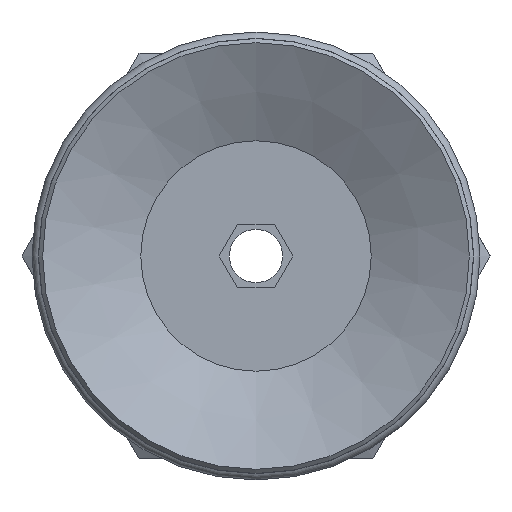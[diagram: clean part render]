
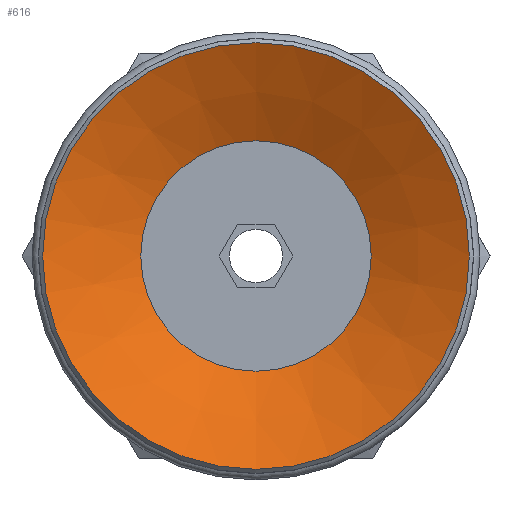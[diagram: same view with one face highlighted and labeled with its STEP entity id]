
A CAD part, front view. The second image highlights one B-rep face of the part: STEP entity #616.
In plain terms, the highlighted conical face has half-angle 63 degrees and reference radius 5.4 mm.
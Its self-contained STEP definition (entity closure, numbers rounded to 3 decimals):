
#616=ADVANCED_FACE('',(#892,#893),#894,.F.);
#892=FACE_BOUND('',#1199,.T.);
#893=FACE_OUTER_BOUND('',#1200,.T.);
#894=CONICAL_SURFACE('',#1201,5.4,1.1);
#1199=EDGE_LOOP('',(#1925));
#1200=EDGE_LOOP('',(#1926));
#1201=AXIS2_PLACEMENT_3D('',#1927,#1928,#1929);
#1925=ORIENTED_EDGE('',*,*,#2219,.F.);
#1926=ORIENTED_EDGE('',*,*,#2225,.T.);
#1927=CARTESIAN_POINT('',(0.0,5.518,0.0));
#1928=DIRECTION('',(-0.0,-1.0,0.));
#1929=DIRECTION('',(0.0,0.,-1.0));
#2219=EDGE_CURVE('',#2555,#2555,#2556,.T.);
#2225=EDGE_CURVE('',#2567,#2567,#2568,.T.);
#2555=VERTEX_POINT('',#3311);
#2556=CIRCLE('',#3312,5.4);
#2567=VERTEX_POINT('',#3323);
#2568=CIRCLE('',#3324,10.0);
#3311=CARTESIAN_POINT('',(0.0,5.518,-5.4));
#3312=AXIS2_PLACEMENT_3D('',#3674,#3675,#3676);
#3323=CARTESIAN_POINT('',(0.0,3.175,-10.0));
#3324=AXIS2_PLACEMENT_3D('',#3692,#3693,#3694);
#3674=CARTESIAN_POINT('',(0.0,5.518,0.0));
#3675=DIRECTION('',(0.0,-1.0,0.));
#3676=DIRECTION('',(0.0,0.,-1.0));
#3692=CARTESIAN_POINT('',(0.0,3.175,0.0));
#3693=DIRECTION('',(0.0,-1.0,0.));
#3694=DIRECTION('',(0.0,0.,-1.0));
